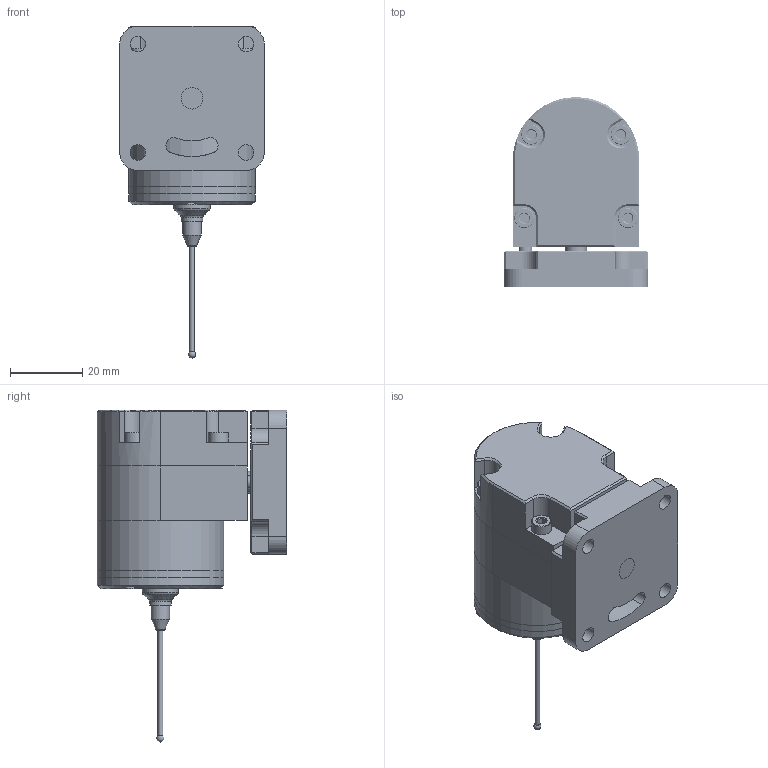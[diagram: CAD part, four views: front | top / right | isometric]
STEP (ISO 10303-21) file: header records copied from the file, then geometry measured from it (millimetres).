
FILE_DESCRIPTION(/* description */ (''),/* implementation_level */ '2;1');
FILE_NAME(/* name */ 'DIG3D.R.step',/* time_stamp */ '2025-05-06T12:04:04+02:00',/* author */ (''),/* organization */ (''),/* preprocessor_version */ 'ST-DEVELOPER v20.1',/* originating_system */ 'Autodesk Translation Framework v14.4.0.0',/* authorisation */ '');
FILE_SCHEMA (('AUTOMOTIVE_DESIGN { 1 0 10303 214 3 1 1 }'));
Length unit declared in the file: millimetre
Products named in the file (18): DIG3D.R_solid; Base plate; Body; Cover; 91290A012_Alloy Steel Socket Head Screw; 91290A115_Alloy Steel Socket Head Screw; M2 spacer; DIG3D.R.sensor_solid; Spacer; Bottom; Body_1; 94085A112_Alloy Steel Brass-Tip Set Screw; 92125A371_18-8 Stainless Steel Hex Drive Flat Head Screw; pogo_in; M2.5 extender 10mm; M2.5tip; silicon_4mm; Component1
Assembly tree (24 placements, depth 4):
  DIG3D.R_solid
    Base plate
    Body
    Cover
    91290A115_Alloy Steel Socket Head Screw  x4
    91290A012_Alloy Steel Socket Head Screw
    M2 spacer
    DIG3D.R.sensor_solid
      Spacer
      Bottom
      94085A112_Alloy Steel Brass-Tip Set Screw  x3
      Body_1
      92125A371_18-8 Stainless Steel Hex Drive Flat Head Screw  x3
      pogo_in
      M2.5 extender 10mm
      M2.5tip
      silicon_4mm
        Component1
Bounding box: 40 x 52.5 x 91.9 mm (x, y, z)
Volume: 69333 mm3; surface area: 27260.8 mm2
Topology: 22 solids, 23 shells, 896 faces, 2340 edges, 1513 vertices
Faces by surface type: cylinder 501, plane 239, cone 119, bspline 22, torus 13, sphere 2
Full cylindrical faces by diameter (mm): 1.35 x1, 1.48 x11, 2 x13, 2.075 x1, 2.2 x1, 2.35 x142, 2.4 x3, 2.43 x2, 2.5 x9, 3 x151, 3.091 x21, 3.4 x4, 3.6 x1, 3.8 x1, 4 x21, 4.2 x1, 4.3 x4, 5.1 x1, 5.5 x4, 6 x6, 7.4 x1, 10 x2, 12 x1, 35 x3
Entity records: 23964 total; most frequent: CARTESIAN_POINT 12191, ORIENTED_EDGE 2430, DIRECTION 2264, EDGE_CURVE 1215, AXIS2_PLACEMENT_3D 853, VERTEX_POINT 787, EDGE_LOOP 558, LINE 558
